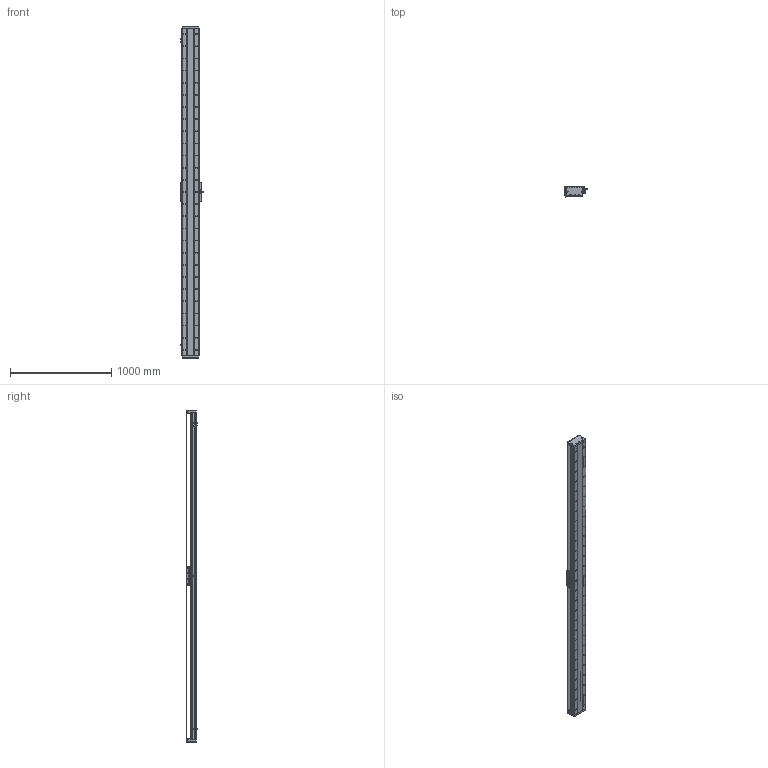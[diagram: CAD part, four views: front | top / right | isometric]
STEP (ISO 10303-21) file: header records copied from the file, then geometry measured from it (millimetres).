
FILE_DESCRIPTION (( 'STEP AP203' ), '1' );
FILE_NAME ('DA-C165-C2-3000-C010-0.2 直线电机.STEP', '2023-05-11T07:54:00', ( '微软用户' ), ( '微软中国' ), 'SwSTEP 2.0', 'SolidWorks 2019', '' );
FILE_SCHEMA (( 'CONFIG_CONTROL_DESIGN' ));
Length unit declared in the file: millimetre
Products named in the file (18): 复件 DA165-GDLK-00 钢带拉块^复件 CU165钢带组件_DA-C165-C2-T-C010-0.2-N 直线电机; 复件 DA165-GDYK-00 钢带压块^复件 CU165钢带组件_DA-C165-C2-T-C010-0.2-N 直线电机; 复件 CKM02-W075-C1C2-TP-3.0 一体电机-C2^DA-C165-C2-T-C010-0.2-N 直线电机; 复件 DMA-010-0.2 读数头^DA-C165-C2-T-C010-0.2-N 直线电机; 葩璃 DA95-GT-T-00^IU-CU165-L 菁釱絳寢_T; 复件 DA165-GD-DG-H-00 端盖^复件 CU165钢带组件_DA-C165-C2-T-C010-0.2-N 直线电机; 珨极趙賑雄怢啣wf-C2; 复件 DA165-GD-1860-002-00 钢带盖板^复件 CU165钢带组件_DA-C165-C2-T-C010-0.2-N 直线电机; IU-CU165-L 菁釱絳寢; 复件 DA95-HXJ-00 缓冲橡胶^DA-C165-C2-T-C010-0.2-N 直线电机; 葩璃 CKM01-W075-TRL^DA-C165-C2-T-C010-0.2-N 眻盄萇儂; 复件 CU165钢带组件^DA-C165-C2-T-C010-0.2-N 直线电机; DA-C165-C2-3000-C010-0.2 眻盄萇儂; IU-CU165-L-00 菁釱_L3240; 复件 XD-U-02L 磁栅尺^DA-C165-C2-T-C010-0.2-N 直线电机_T; 复件 六角薄螺母 M3^DA-C165-C2-T-C010-0.2-N 直线电机_GB_FASTENER_NUT_STNAB M3-C; 葩璃 PM-T45^DA-C165-C2-T-C010-0.2-N 眻盄萇儂; 复件 DA165-GYP-00 光电感应片^DA-C165-C2-T-C010-0.2-N 直线电机
Assembly tree (33 placements, depth 3):
  DA-C165-C2-3000-C010-0.2 眻盄萇儂
    IU-CU165-L 菁釱絳寢
      IU-CU165-L-00 菁釱_L3240
      葩璃 DA95-GT-T-00^IU-CU165-L 菁釱絳寢_T  x4
    复件 XD-U-02L 磁栅尺^DA-C165-C2-T-C010-0.2-N 直线电机_T
    葩璃 PM-T45^DA-C165-C2-T-C010-0.2-N 眻盄萇儂  x3
    葩璃 CKM01-W075-TRL^DA-C165-C2-T-C010-0.2-N 眻盄萇儂
    复件 CU165钢带组件^DA-C165-C2-T-C010-0.2-N 直线电机
      复件 DA165-GD-DG-H-00 端盖^复件 CU165钢带组件_DA-C165-C2-T-C010-0.2-N 直线电机  x2
      复件 DA165-GDYK-00 钢带压块^复件 CU165钢带组件_DA-C165-C2-T-C010-0.2-N 直线电机  x2
      复件 DA165-GD-1860-002-00 钢带盖板^复件 CU165钢带组件_DA-C165-C2-T-C010-0.2-N 直线电机
      复件 DA165-GDLK-00 钢带拉块^复件 CU165钢带组件_DA-C165-C2-T-C010-0.2-N 直线电机  x2
    复件 DA95-HXJ-00 缓冲橡胶^DA-C165-C2-T-C010-0.2-N 直线电机  x4
    复件 DA165-GYP-00 光电感应片^DA-C165-C2-T-C010-0.2-N 直线电机
    复件 DMA-010-0.2 读数头^DA-C165-C2-T-C010-0.2-N 直线电机
    复件 CKM02-W075-C1C2-TP-3.0 一体电机-C2^DA-C165-C2-T-C010-0.2-N 直线电机
    复件 六角薄螺母 M3^DA-C165-C2-T-C010-0.2-N 直线电机_GB_FASTENER_NUT_STNAB M3-C  x6
    珨极趙賑雄怢啣wf-C2
Bounding box: 233 x 111.45 x 3280 mm (x, y, z)
Volume: 17729458.8 mm3; surface area: 5404539.9 mm2
Topology: 70 solids, 70 shells, 4207 faces, 12623 edges, 8107 vertices
Faces by surface type: cylinder 2605, plane 1122, cone 430, torus 46, sphere 4
Entity records: 147399 total; most frequent: CARTESIAN_POINT 41355, ORIENTED_EDGE 22418, DIRECTION 21201, EDGE_CURVE 11209, AXIS2_PLACEMENT_3D 8139, VERTEX_POINT 7343, EDGE_LOOP 5072, VECTOR 4923
